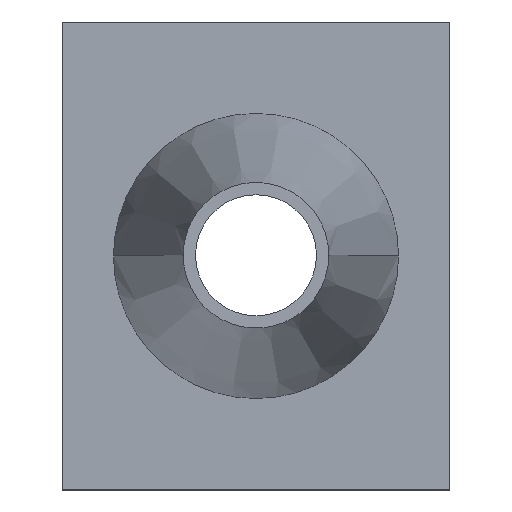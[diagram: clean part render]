
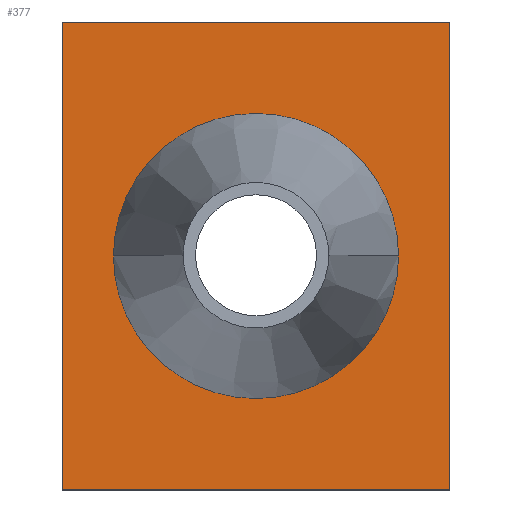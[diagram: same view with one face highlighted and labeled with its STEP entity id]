
A CAD part, top view. The second image highlights one B-rep face of the part: STEP entity #377.
In plain terms, the highlighted planar face has unit normal (0, 0, 1).
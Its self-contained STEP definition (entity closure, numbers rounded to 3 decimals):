
#167=CARTESIAN_POINT('Vertex',(0.,116.,3.)) ;
#174=CARTESIAN_POINT('Vertex',(0.,0.,3.)) ;
#177=CARTESIAN_POINT('Line Origine',(0.,58.,3.)) ;
#198=CARTESIAN_POINT('Vertex',(96.,116.,3.)) ;
#201=CARTESIAN_POINT('Line Origine',(48.,116.,3.)) ;
#222=CARTESIAN_POINT('Vertex',(96.,0.,3.)) ;
#225=CARTESIAN_POINT('Line Origine',(96.,58.,3.)) ;
#242=CARTESIAN_POINT('Line Origine',(48.,0.,3.)) ;
#324=CARTESIAN_POINT('Axis2P3D Location',(0.,0.,3.)) ;
#336=CARTESIAN_POINT('Control Point',(83.326,58.,3.)) ;
#337=CARTESIAN_POINT('Control Point',(83.326,63.839,3.)) ;
#338=CARTESIAN_POINT('Control Point',(82.12,69.678,3.)) ;
#339=CARTESIAN_POINT('Control Point',(79.705,75.185,3.)) ;
#340=CARTESIAN_POINT('Control Point',(72.75,84.872,3.)) ;
#341=CARTESIAN_POINT('Control Point',(62.524,91.009,3.)) ;
#342=CARTESIAN_POINT('Control Point',(56.837,92.964,3.)) ;
#343=CARTESIAN_POINT('Control Point',(44.998,94.41,3.)) ;
#344=CARTESIAN_POINT('Control Point',(33.556,91.045,3.)) ;
#345=CARTESIAN_POINT('Control Point',(28.266,88.185,3.)) ;
#346=CARTESIAN_POINT('Control Point',(20.088,81.225,3.)) ;
#347=CARTESIAN_POINT('Control Point',(14.996,71.86,3.)) ;
#348=CARTESIAN_POINT('Control Point',(13.448,67.354,3.)) ;
#349=CARTESIAN_POINT('Control Point',(12.674,62.677,3.)) ;
#350=CARTESIAN_POINT('Control Point',(12.674,58.,3.)) ;
#351=CARTESIAN_POINT('Vertex',(83.326,58.,3.)) ;
#353=CARTESIAN_POINT('Vertex',(12.674,58.,3.)) ;
#357=CARTESIAN_POINT('Control Point',(83.326,58.,3.)) ;
#358=CARTESIAN_POINT('Control Point',(83.326,52.161,3.)) ;
#359=CARTESIAN_POINT('Control Point',(82.12,46.322,3.)) ;
#360=CARTESIAN_POINT('Control Point',(79.705,40.815,3.)) ;
#361=CARTESIAN_POINT('Control Point',(72.75,31.128,3.)) ;
#362=CARTESIAN_POINT('Control Point',(62.524,24.991,3.)) ;
#363=CARTESIAN_POINT('Control Point',(56.837,23.036,3.)) ;
#364=CARTESIAN_POINT('Control Point',(44.998,21.59,3.)) ;
#365=CARTESIAN_POINT('Control Point',(33.556,24.955,3.)) ;
#366=CARTESIAN_POINT('Control Point',(28.266,27.815,3.)) ;
#367=CARTESIAN_POINT('Control Point',(20.088,34.775,3.)) ;
#368=CARTESIAN_POINT('Control Point',(14.996,44.14,3.)) ;
#369=CARTESIAN_POINT('Control Point',(13.448,48.646,3.)) ;
#370=CARTESIAN_POINT('Control Point',(12.674,53.323,3.)) ;
#371=CARTESIAN_POINT('Control Point',(12.674,58.,3.)) ;
#178=DIRECTION('Vector Direction',(0.,1.,0.)) ;
#202=DIRECTION('Vector Direction',(-1.,0.,0.)) ;
#226=DIRECTION('Vector Direction',(0.,1.,0.)) ;
#243=DIRECTION('Vector Direction',(1.,0.,0.)) ;
#325=DIRECTION('Axis2P3D Direction',(0.,0.,1.)) ;
#326=DIRECTION('Axis2P3D XDirection',(1.,0.,0.)) ;
#327=AXIS2_PLACEMENT_3D('Plane Axis2P3D',#324,#325,#326) ;
#330=ORIENTED_EDGE('',*,*,#181,.F.) ;
#331=ORIENTED_EDGE('',*,*,#246,.T.) ;
#332=ORIENTED_EDGE('',*,*,#229,.T.) ;
#333=ORIENTED_EDGE('',*,*,#205,.T.) ;
#374=ORIENTED_EDGE('',*,*,#355,.F.) ;
#375=ORIENTED_EDGE('',*,*,#372,.T.) ;
#376=FACE_BOUND('',#373,.T.) ;
#179=VECTOR('Line Direction',#178,1.) ;
#203=VECTOR('Line Direction',#202,1.) ;
#227=VECTOR('Line Direction',#226,1.) ;
#244=VECTOR('Line Direction',#243,1.) ;
#377=ADVANCED_FACE('PartBody',(#334,#376),#328,.T.) ;
#335=B_SPLINE_CURVE_WITH_KNOTS('',5,(#336,#337,#338,#339,#340,#341,#342,#343,#344,#345,#346,#347,#348,#349,#350),.UNSPECIFIED.,.F.,.U.,(6,3,3,3,6),(0.,31.718,63.441,95.163,120.568),.UNSPECIFIED.) ;
#356=B_SPLINE_CURVE_WITH_KNOTS('',5,(#357,#358,#359,#360,#361,#362,#363,#364,#365,#366,#367,#368,#369,#370,#371),.UNSPECIFIED.,.F.,.U.,(6,3,3,3,6),(0.,31.718,63.441,95.163,120.568),.UNSPECIFIED.) ;
#181=EDGE_CURVE('',#175,#168,#180,.T.) ;
#205=EDGE_CURVE('',#199,#168,#204,.T.) ;
#229=EDGE_CURVE('',#223,#199,#228,.T.) ;
#246=EDGE_CURVE('',#175,#223,#245,.T.) ;
#355=EDGE_CURVE('',#352,#354,#335,.T.) ;
#372=EDGE_CURVE('',#352,#354,#356,.T.) ;
#329=EDGE_LOOP('',(#330,#331,#332,#333)) ;
#373=EDGE_LOOP('',(#374,#375)) ;
#334=FACE_OUTER_BOUND('',#329,.T.) ;
#180=LINE('Line',#177,#179) ;
#204=LINE('Line',#201,#203) ;
#228=LINE('Line',#225,#227) ;
#245=LINE('Line',#242,#244) ;
#328=PLANE('',#327) ;
#168=VERTEX_POINT('',#167) ;
#175=VERTEX_POINT('',#174) ;
#199=VERTEX_POINT('',#198) ;
#223=VERTEX_POINT('',#222) ;
#352=VERTEX_POINT('',#351) ;
#354=VERTEX_POINT('',#353) ;
